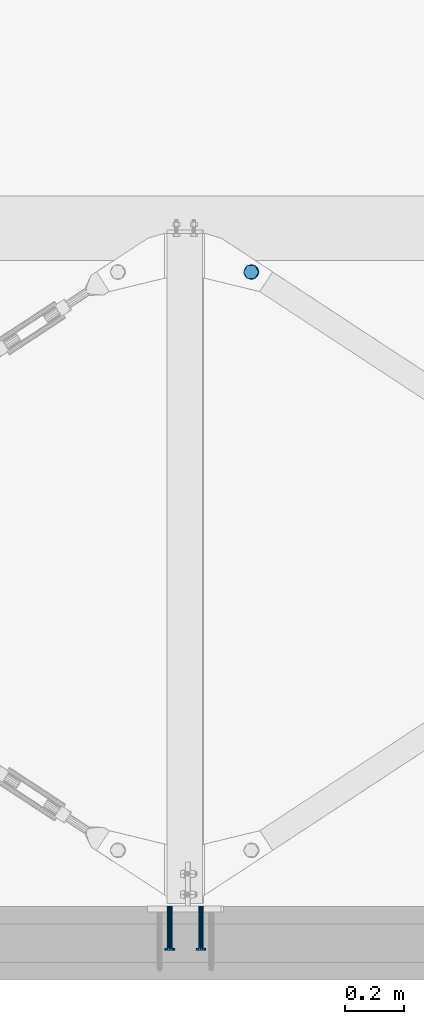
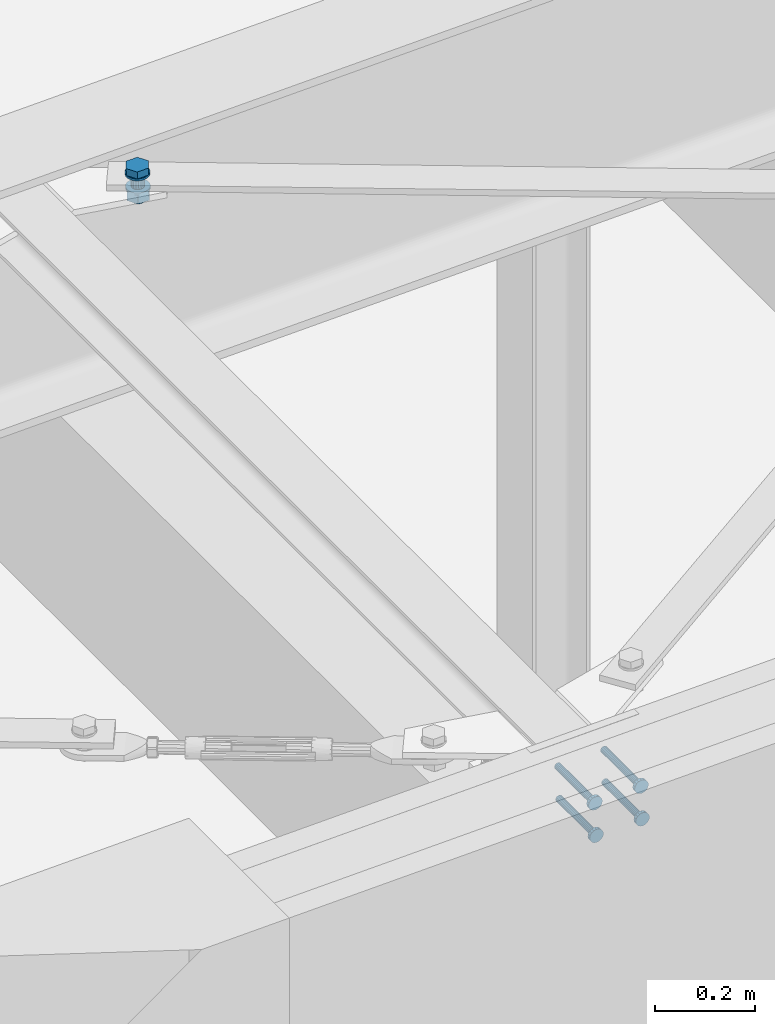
# One storey, part 134 of 476: 5 mechanical fasteners.
"""IFC2X3 building model written with IfcOpenShell, lengths in millimetres."""

from ifc_helpers import new_model, entity, si_unit, converted_unit, origin_with_axes, place, context, project, spatial, faceted_brep, element, save


model = new_model("IFC2X3")

# Units and contexts
model_context = context("Model", 3, precision=1e-09, world=origin_with_axes())
ifc_project = project(units=[si_unit("LENGTHUNIT", "METRE", prefix="MILLI"), si_unit("AREAUNIT", "SQUARE_METRE"), si_unit("VOLUMEUNIT", "CUBIC_METRE"), converted_unit("PLANEANGLEUNIT", "DEGREE", entity("IfcPlaneAngleMeasure", 0.01745329), si_unit("PLANEANGLEUNIT", "RADIAN"), dimensions=[0, 0, 0, 0, 0, 0, 0])], contexts=[model_context])

# Site, building, storey
site_placement = place(None, origin_with_axes())
site = spatial("IfcSite", under=ifc_project, at=site_placement, Name="mKR Teilneubau & Sanierung BA1 - Ostfildern", CompositionType="ELEMENT")
building_placement = place(site_placement, origin_with_axes())
building = spatial("IfcBuilding", under=site, at=building_placement, Name="Struktur 1", CompositionType="ELEMENT")
storey_placement = place(building_placement, origin_with_axes())
storey = spatial("IfcBuildingStorey", under=building, at=storey_placement, Name="Default Storey", CompositionType="ELEMENT", Elevation=0.0)

# Mechanical fasteners
mechanical_fastener_1_placement = place(None, origin_with_axes())
element("IfcMechanicalFastener", 1, at=mechanical_fastener_1_placement, inside=storey, ObjectType="-", NominalDiameter=27.0, NominalLength=70.0, context=model_context, shape_type="Brep", body=[
    faceted_brep([(18740.241751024, -21399.605344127, 5552.151599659), (18740.391848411, -21399.605344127, 5547.15385309), (18745.266908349, -21399.124976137, 5547.300265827), (18745.116810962, -21399.124976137, 5552.298012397), (18749.954622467, -21397.702332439, 5547.441052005), (18749.804525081, -21397.702332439, 5552.438798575), (18754.274844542, -21395.392084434, 5547.57080129), (18754.124747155, -21395.392084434, 5552.56854786), (18758.061550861, -21392.283013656, 5547.684527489), (18757.911453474, -21392.283013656, 5552.682274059), (18761.169220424, -21388.494599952, 5547.777860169), (18761.019123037, -21388.494599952, 5552.775606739), (18763.478427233, -21384.172429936, 5547.847212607), (18763.328329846, -21384.172429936, 5552.844959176), (18764.900429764, -21379.482602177, 5547.889919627), (18764.750332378, -21379.482602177, 5552.887666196), (18765.380581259, -21374.605344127, 5547.904340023), (18765.230483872, -21374.605344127, 5552.902086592), (18764.900429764, -21369.728086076, 5547.889919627), (18764.750332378, -21369.728086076, 5552.887666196), (18763.478427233, -21365.038258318, 5547.847212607), (18763.328329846, -21365.038258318, 5552.844959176), (18761.169220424, -21360.716088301, 5547.777860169), (18761.019123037, -21360.716088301, 5552.775606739), (18758.061550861, -21356.927674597, 5547.684527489), (18757.911453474, -21356.927674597, 5552.682274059), (18754.274844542, -21353.818603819, 5547.57080129), (18754.124747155, -21353.818603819, 5552.56854786), (18749.954622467, -21351.508355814, 5547.441052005), (18749.804525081, -21351.508355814, 5552.438798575), (18745.266908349, -21350.085712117, 5547.300265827), (18745.116810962, -21350.085712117, 5552.298012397), (18740.391848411, -21349.605344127, 5547.15385309), (18740.241751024, -21349.605344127, 5552.151599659), (18735.516788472, -21350.085712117, 5547.007440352), (18735.366691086, -21350.085712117, 5552.005186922), (18730.829074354, -21351.508355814, 5546.866654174), (18730.678976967, -21351.508355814, 5551.864400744), (18726.508852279, -21353.818603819, 5546.73690489), (18726.358754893, -21353.818603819, 5551.734651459), (18722.72214596, -21356.927674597, 5546.62317869), (18722.572048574, -21356.927674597, 5551.62092526), (18719.614476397, -21360.716088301, 5546.529846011), (18719.464379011, -21360.716088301, 5551.52759258), (18717.305269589, -21365.038258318, 5546.460493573), (18717.155172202, -21365.038258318, 5551.458240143), (18715.883267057, -21369.728086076, 5546.417786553), (18715.73316967, -21369.728086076, 5551.415533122), (18715.403115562, -21374.605344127, 5546.403366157), (18715.253018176, -21374.605344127, 5551.401112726), (18715.883267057, -21379.482602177, 5546.417786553), (18715.73316967, -21379.482602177, 5551.415533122), (18717.305269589, -21384.172429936, 5546.460493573), (18717.155172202, -21384.172429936, 5551.458240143), (18719.614476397, -21388.494599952, 5546.529846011), (18719.464379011, -21388.494599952, 5551.52759258), (18722.72214596, -21392.283013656, 5546.62317869), (18722.572048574, -21392.283013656, 5551.62092526), (18726.508852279, -21395.392084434, 5546.73690489), (18726.358754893, -21395.392084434, 5551.734651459), (18730.829074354, -21397.702332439, 5546.866654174), (18730.678976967, -21397.702332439, 5551.864400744), (18735.516788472, -21399.124976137, 5547.007440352), (18735.366691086, -21399.124976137, 5552.005186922)], [[[0, 1, 2, 3]], [[3, 2, 4, 5]], [[5, 4, 6, 7]], [[7, 6, 8, 9]], [[9, 8, 10, 11]], [[11, 10, 12, 13]], [[13, 12, 14, 15]], [[15, 14, 16, 17]], [[17, 16, 18, 19]], [[19, 18, 20, 21]], [[21, 20, 22, 23]], [[23, 22, 24, 25]], [[25, 24, 26, 27]], [[27, 26, 28, 29]], [[29, 28, 30, 31]], [[31, 30, 32, 33]], [[33, 32, 34, 35]], [[35, 34, 36, 37]], [[37, 36, 38, 39]], [[39, 38, 40, 41]], [[41, 40, 42, 43]], [[43, 42, 44, 45]], [[45, 44, 46, 47]], [[47, 46, 48, 49]], [[49, 48, 50, 51]], [[51, 50, 52, 53]], [[53, 52, 54, 55]], [[55, 54, 56, 57]], [[57, 56, 58, 59]], [[59, 58, 60, 61]], [[61, 60, 62, 63]], [[63, 62, 1, 0]], [[0, 3, 5, 7, 9, 11, 13, 15, 17, 19, 21, 23, 25, 27, 29, 31, 33, 35, 37, 39, 41, 43, 45, 47, 49, 51, 53, 55, 57, 59, 61, 63]], [[1, 62, 60, 58, 56, 54, 52, 50, 48, 46, 44, 42, 40, 38, 36, 34, 32, 30, 28, 26, 24, 22, 20, 18, 16, 14, 12, 10, 8, 6, 4, 2]]]),
    faceted_brep([(18752.948521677, -21352.586648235, 5552.533222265), (18752.438190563, -21352.586648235, 5569.525560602), (18765.144961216, -21374.605344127, 5569.907183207), (18765.655292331, -21374.605344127, 5552.91484487), (18752.438190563, -21396.624040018, 5569.525560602), (18752.948521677, -21396.624040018, 5552.533222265), (18727.024649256, -21396.624040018, 5568.762315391), (18727.534980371, -21396.624040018, 5551.769977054), (18714.317878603, -21374.605344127, 5568.380692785), (18714.828209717, -21374.605344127, 5551.388354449), (18727.024649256, -21352.586648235, 5568.762315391), (18727.534980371, -21352.586648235, 5551.769977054)], [[[0, 1, 2, 3]], [[3, 2, 4, 5]], [[5, 4, 6, 7]], [[7, 6, 8, 9]], [[9, 8, 10, 11]], [[11, 10, 1, 0]], [[4, 2, 1, 10, 8, 6]], [[0, 3, 5, 7, 9, 11]]]),
    faceted_brep([(18740.391848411, -21388.105344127, 5547.15385309), (18741.290059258, -21388.105344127, 5517.246402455), (18746.453957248, -21387.077717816, 5517.40148987), (18745.555746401, -21387.077717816, 5547.308940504), (18750.831698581, -21384.151285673, 5517.532966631), (18749.933487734, -21384.151285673, 5547.440417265), (18753.756811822, -21379.771570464, 5517.620816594), (18752.858600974, -21379.771570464, 5547.528267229), (18754.783974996, -21374.605344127, 5517.651665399), (18753.885764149, -21374.605344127, 5547.559116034), (18753.756811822, -21369.43911779, 5517.620816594), (18752.858600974, -21369.43911779, 5547.528267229), (18750.831698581, -21365.059402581, 5517.532966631), (18749.933487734, -21365.059402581, 5547.440417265), (18746.453957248, -21362.132970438, 5517.40148987), (18745.555746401, -21362.132970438, 5547.308940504), (18741.290059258, -21361.105344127, 5517.246402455), (18740.391848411, -21361.105344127, 5547.15385309), (18736.126161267, -21362.132970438, 5517.091315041), (18735.22795042, -21362.132970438, 5546.998765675), (18731.748419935, -21365.059402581, 5516.95983828), (18730.850209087, -21365.059402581, 5546.867288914), (18728.823306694, -21369.43911779, 5516.871988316), (18727.925095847, -21369.43911779, 5546.779438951), (18727.79614352, -21374.605344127, 5516.841139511), (18726.897932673, -21374.605344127, 5546.748590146), (18728.823306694, -21379.771570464, 5516.871988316), (18727.925095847, -21379.771570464, 5546.779438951), (18731.748419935, -21384.151285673, 5516.95983828), (18730.850209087, -21384.151285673, 5546.867288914), (18736.126161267, -21387.077717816, 5517.091315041), (18735.22795042, -21387.077717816, 5546.998765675)], [[[0, 1, 2, 3]], [[3, 2, 4, 5]], [[5, 4, 6, 7]], [[7, 6, 8, 9]], [[9, 8, 10, 11]], [[11, 10, 12, 13]], [[13, 12, 14, 15]], [[15, 14, 16, 17]], [[17, 16, 18, 19]], [[19, 18, 20, 21]], [[21, 20, 22, 23]], [[23, 22, 24, 25]], [[25, 24, 26, 27]], [[27, 26, 28, 29]], [[29, 28, 30, 31]], [[31, 30, 1, 0]], [[0, 3, 5, 7, 9, 11, 13, 15, 17, 19, 21, 23, 25, 27, 29, 31]], [[1, 30, 28, 26, 24, 22, 20, 18, 16, 14, 12, 10, 8, 6, 4, 2]]]),
    faceted_brep([(18741.290059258, -21399.605344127, 5517.246402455), (18741.440156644, -21399.605344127, 5512.248655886), (18746.315216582, -21399.124976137, 5512.395068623), (18746.165119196, -21399.124976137, 5517.392815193), (18751.002930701, -21397.702332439, 5512.535854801), (18750.852833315, -21397.702332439, 5517.533601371), (18755.323152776, -21395.392084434, 5512.665604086), (18755.173055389, -21395.392084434, 5517.663350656), (18759.109859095, -21392.283013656, 5512.779330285), (18758.959761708, -21392.283013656, 5517.777076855), (18762.217528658, -21388.494599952, 5512.872662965), (18762.067431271, -21388.494599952, 5517.870409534), (18764.526735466, -21384.172429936, 5512.942015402), (18764.37663808, -21384.172429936, 5517.939761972), (18765.948737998, -21379.482602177, 5512.984722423), (18765.798640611, -21379.482602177, 5517.982468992), (18766.428889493, -21374.605344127, 5512.999142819), (18766.278792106, -21374.605344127, 5517.996889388), (18765.948737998, -21369.728086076, 5512.984722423), (18765.798640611, -21369.728086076, 5517.982468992), (18764.526735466, -21365.038258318, 5512.942015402), (18764.37663808, -21365.038258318, 5517.939761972), (18762.217528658, -21360.716088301, 5512.872662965), (18762.067431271, -21360.716088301, 5517.870409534), (18759.109859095, -21356.927674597, 5512.779330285), (18758.959761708, -21356.927674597, 5517.777076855), (18755.323152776, -21353.818603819, 5512.665604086), (18755.173055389, -21353.818603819, 5517.663350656), (18751.002930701, -21351.508355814, 5512.535854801), (18750.852833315, -21351.508355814, 5517.533601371), (18746.315216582, -21350.085712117, 5512.395068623), (18746.165119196, -21350.085712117, 5517.392815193), (18741.440156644, -21349.605344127, 5512.248655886), (18741.290059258, -21349.605344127, 5517.246402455), (18736.565096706, -21350.085712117, 5512.102243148), (18736.41499932, -21350.085712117, 5517.099989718), (18731.877382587, -21351.508355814, 5511.96145697), (18731.727285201, -21351.508355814, 5516.95920354), (18727.557160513, -21353.818603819, 5511.831707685), (18727.407063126, -21353.818603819, 5516.829454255), (18723.770454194, -21356.927674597, 5511.717981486), (18723.620356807, -21356.927674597, 5516.715728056), (18720.662784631, -21360.716088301, 5511.624648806), (18720.512687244, -21360.716088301, 5516.622395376), (18718.353577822, -21365.038258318, 5511.555296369), (18718.203480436, -21365.038258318, 5516.553042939), (18716.931575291, -21369.728086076, 5511.512589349), (18716.781477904, -21369.728086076, 5516.510335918), (18716.451423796, -21374.605344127, 5511.498168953), (18716.301326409, -21374.605344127, 5516.495915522), (18716.931575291, -21379.482602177, 5511.512589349), (18716.781477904, -21379.482602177, 5516.510335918), (18718.353577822, -21384.172429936, 5511.555296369), (18718.203480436, -21384.172429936, 5516.553042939), (18720.662784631, -21388.494599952, 5511.624648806), (18720.512687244, -21388.494599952, 5516.622395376), (18723.770454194, -21392.283013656, 5511.717981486), (18723.620356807, -21392.283013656, 5516.715728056), (18727.557160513, -21395.392084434, 5511.831707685), (18727.407063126, -21395.392084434, 5516.829454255), (18731.877382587, -21397.702332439, 5511.96145697), (18731.727285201, -21397.702332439, 5516.95920354), (18736.565096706, -21399.124976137, 5512.102243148), (18736.41499932, -21399.124976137, 5517.099989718)], [[[0, 1, 2, 3]], [[3, 2, 4, 5]], [[5, 4, 6, 7]], [[7, 6, 8, 9]], [[9, 8, 10, 11]], [[11, 10, 12, 13]], [[13, 12, 14, 15]], [[15, 14, 16, 17]], [[17, 16, 18, 19]], [[19, 18, 20, 21]], [[21, 20, 22, 23]], [[23, 22, 24, 25]], [[25, 24, 26, 27]], [[27, 26, 28, 29]], [[29, 28, 30, 31]], [[31, 30, 32, 33]], [[33, 32, 34, 35]], [[35, 34, 36, 37]], [[37, 36, 38, 39]], [[39, 38, 40, 41]], [[41, 40, 42, 43]], [[43, 42, 44, 45]], [[45, 44, 46, 47]], [[47, 46, 48, 49]], [[49, 48, 50, 51]], [[51, 50, 52, 53]], [[53, 52, 54, 55]], [[55, 54, 56, 57]], [[57, 56, 58, 59]], [[59, 58, 60, 61]], [[61, 60, 62, 63]], [[63, 62, 1, 0]], [[0, 3, 5, 7, 9, 11, 13, 15, 17, 19, 21, 23, 25, 27, 29, 31, 33, 35, 37, 39, 41, 43, 45, 47, 49, 51, 53, 55, 57, 59, 61, 63]], [[1, 62, 60, 58, 56, 54, 52, 50, 48, 46, 44, 42, 40, 38, 36, 34, 32, 30, 28, 26, 24, 22, 20, 18, 16, 14, 12, 10, 8, 6, 4, 2]]]),
    faceted_brep([(18754.844838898, -21352.52169633, 5490.641319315), (18754.184410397, -21352.52169633, 5512.631404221), (18766.92866415, -21374.605344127, 5513.014152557), (18767.589092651, -21374.605344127, 5491.024067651), (18754.184410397, -21396.688991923, 5512.631404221), (18754.844838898, -21396.688991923, 5490.641319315), (18728.695902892, -21396.688991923, 5511.86590755), (18729.356331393, -21396.688991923, 5489.875822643), (18715.951649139, -21374.605344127, 5511.483159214), (18716.61207764, -21374.605344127, 5489.493074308), (18728.695902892, -21352.52169633, 5511.86590755), (18729.356331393, -21352.52169633, 5489.875822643)], [[[0, 1, 2, 3]], [[3, 2, 4, 5]], [[5, 4, 6, 7]], [[7, 6, 8, 9]], [[9, 8, 10, 11]], [[11, 10, 1, 0]], [[4, 2, 1, 10, 8, 6]], [[0, 3, 5, 7, 9, 11]]]),
    faceted_brep([(18742.100585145, -21388.105344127, 5490.258570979), (18742.343114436, -21388.105344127, 5482.183147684), (18747.507012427, -21387.077717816, 5482.338235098), (18747.264483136, -21387.077717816, 5490.413658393), (18751.884753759, -21384.151285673, 5482.46971186), (18751.642224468, -21384.151285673, 5490.545135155), (18754.809867, -21379.771570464, 5482.557561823), (18754.567337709, -21379.771570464, 5490.632985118), (18755.837030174, -21374.605344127, 5482.588410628), (18755.594500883, -21374.605344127, 5490.663833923), (18754.809867, -21369.43911779, 5482.557561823), (18754.567337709, -21369.43911779, 5490.632985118), (18751.884753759, -21365.059402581, 5482.46971186), (18751.642224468, -21365.059402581, 5490.545135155), (18747.507012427, -21362.132970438, 5482.338235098), (18747.264483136, -21362.132970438, 5490.413658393), (18742.343114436, -21361.105344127, 5482.183147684), (18742.100585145, -21361.105344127, 5490.258570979), (18737.179216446, -21362.132970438, 5482.02806027), (18736.936687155, -21362.132970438, 5490.103483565), (18732.801475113, -21365.059402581, 5481.896583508), (18732.558945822, -21365.059402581, 5489.972006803), (18729.876361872, -21369.43911779, 5481.808733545), (18729.633832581, -21369.43911779, 5489.88415684), (18728.849198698, -21374.605344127, 5481.77788474), (18728.606669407, -21374.605344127, 5489.853308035), (18729.876361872, -21379.771570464, 5481.808733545), (18729.633832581, -21379.771570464, 5489.88415684), (18732.801475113, -21384.151285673, 5481.896583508), (18732.558945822, -21384.151285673, 5489.972006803), (18737.179216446, -21387.077717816, 5482.02806027), (18736.936687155, -21387.077717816, 5490.103483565)], [[[0, 1, 2, 3]], [[3, 2, 4, 5]], [[5, 4, 6, 7]], [[7, 6, 8, 9]], [[9, 8, 10, 11]], [[11, 10, 12, 13]], [[13, 12, 14, 15]], [[15, 14, 16, 17]], [[17, 16, 18, 19]], [[19, 18, 20, 21]], [[21, 20, 22, 23]], [[23, 22, 24, 25]], [[25, 24, 26, 27]], [[27, 26, 28, 29]], [[29, 28, 30, 31]], [[31, 30, 1, 0]], [[0, 3, 5, 7, 9, 11, 13, 15, 17, 19, 21, 23, 25, 27, 29, 31]], [[1, 30, 28, 26, 24, 22, 20, 18, 16, 14, 12, 10, 8, 6, 4, 2]]]),
])
mechanical_fastener_2_placement = place(None, origin_with_axes())
element("IfcMechanicalFastener", 2, at=mechanical_fastener_2_placement, inside=storey, ObjectType="-", NominalDiameter=16.0, NominalLength=150.0, context=model_context, shape_type="Brep", body=[
    faceted_brep([(18454.335924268, -23671.67387897, 5511.457641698), (18454.335924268, -23529.67387897, 5511.457641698), (18455.036585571, -23529.67387897, 5508.415850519), (18455.036585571, -23671.67387897, 5508.415850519), (18456.847955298, -23529.67387897, 5505.873733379), (18456.847955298, -23671.67387897, 5505.873733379), (18459.494268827, -23529.67387897, 5504.218304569), (18459.494268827, -23671.67387897, 5504.218304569), (18462.572648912, -23529.67387897, 5503.701588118), (18462.572648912, -23671.67387897, 5503.701588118), (18465.614440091, -23529.67387897, 5504.402249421), (18465.614440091, -23671.67387897, 5504.402249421), (18468.15655723, -23529.67387897, 5506.213619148), (18468.15655723, -23671.67387897, 5506.213619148), (18469.811986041, -23529.67387897, 5508.859932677), (18469.811986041, -23671.67387897, 5508.859932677), (18470.328702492, -23529.67387897, 5511.938312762), (18470.328702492, -23671.67387897, 5511.938312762), (18469.628041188, -23529.67387897, 5514.98010394), (18469.628041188, -23671.67387897, 5514.98010394), (18467.816671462, -23529.67387897, 5517.52222108), (18467.816671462, -23671.67387897, 5517.52222108), (18465.170357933, -23529.67387897, 5519.177649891), (18465.170357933, -23671.67387897, 5519.177649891), (18462.091977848, -23529.67387897, 5519.694366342), (18462.091977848, -23671.67387897, 5519.694366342), (18459.050186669, -23529.67387897, 5518.993705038), (18459.050186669, -23671.67387897, 5518.993705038), (18456.508069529, -23529.67387897, 5517.182335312), (18456.508069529, -23671.67387897, 5517.182335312), (18454.852640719, -23529.67387897, 5514.536021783), (18454.852640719, -23671.67387897, 5514.536021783)], [[[0, 1, 2, 3]], [[3, 2, 4, 5]], [[5, 4, 6, 7]], [[7, 6, 8, 9]], [[9, 8, 10, 11]], [[11, 10, 12, 13]], [[13, 12, 14, 15]], [[15, 14, 16, 17]], [[17, 16, 18, 19]], [[19, 18, 20, 21]], [[21, 20, 22, 23]], [[23, 22, 24, 25]], [[25, 24, 26, 27]], [[27, 26, 28, 29]], [[29, 28, 30, 31]], [[31, 30, 1, 0]], [[0, 3, 5, 7, 9, 11, 13, 15, 17, 19, 21, 23, 25, 27, 29, 31]], [[1, 30, 28, 26, 24, 22, 20, 18, 16, 14, 12, 10, 8, 6, 4, 2]]]),
    faceted_brep([(18446.339535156, -23679.67387897, 5511.217306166), (18446.339535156, -23671.67387897, 5511.217306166), (18447.740857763, -23671.67387897, 5505.133723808), (18447.740857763, -23679.67387897, 5505.133723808), (18451.363597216, -23671.67387897, 5500.049489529), (18451.363597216, -23679.67387897, 5500.049489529), (18456.656224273, -23671.67387897, 5496.738631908), (18456.656224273, -23679.67387897, 5496.738631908), (18462.812984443, -23671.67387897, 5495.705199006), (18462.812984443, -23679.67387897, 5495.705199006), (18468.896566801, -23671.67387897, 5497.106521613), (18468.896566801, -23679.67387897, 5497.106521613), (18473.980801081, -23671.67387897, 5500.729261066), (18473.980801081, -23679.67387897, 5500.729261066), (18477.291658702, -23671.67387897, 5506.021888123), (18477.291658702, -23679.67387897, 5506.021888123), (18478.325091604, -23671.67387897, 5512.178648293), (18478.325091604, -23679.67387897, 5512.178648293), (18476.923768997, -23671.67387897, 5518.262230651), (18476.923768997, -23679.67387897, 5518.262230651), (18473.301029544, -23671.67387897, 5523.346464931), (18473.301029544, -23679.67387897, 5523.346464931), (18468.008402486, -23671.67387897, 5526.657322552), (18468.008402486, -23679.67387897, 5526.657322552), (18461.851642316, -23671.67387897, 5527.690755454), (18461.851642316, -23679.67387897, 5527.690755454), (18455.768059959, -23671.67387897, 5526.289432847), (18455.768059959, -23679.67387897, 5526.289432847), (18450.683825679, -23671.67387897, 5522.666693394), (18450.683825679, -23679.67387897, 5522.666693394), (18447.372968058, -23671.67387897, 5517.374066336), (18447.372968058, -23679.67387897, 5517.374066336)], [[[0, 1, 2, 3]], [[3, 2, 4, 5]], [[5, 4, 6, 7]], [[7, 6, 8, 9]], [[9, 8, 10, 11]], [[11, 10, 12, 13]], [[13, 12, 14, 15]], [[15, 14, 16, 17]], [[17, 16, 18, 19]], [[19, 18, 20, 21]], [[21, 20, 22, 23]], [[23, 22, 24, 25]], [[25, 24, 26, 27]], [[27, 26, 28, 29]], [[29, 28, 30, 31]], [[31, 30, 1, 0]], [[0, 3, 5, 7, 9, 11, 13, 15, 17, 19, 21, 23, 25, 27, 29, 31]], [[1, 30, 28, 26, 24, 22, 20, 18, 16, 14, 12, 10, 8, 6, 4, 2]]]),
])
mechanical_fastener_3_placement = place(None, origin_with_axes())
element("IfcMechanicalFastener", 3, at=mechanical_fastener_3_placement, inside=storey, ObjectType="-", NominalDiameter=16.0, NominalLength=150.0, context=model_context, shape_type="Brep", body=[
    faceted_brep([(18560.288080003, -23671.67387897, 5514.642087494), (18560.288080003, -23529.67387897, 5514.642087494), (18560.988741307, -23529.67387897, 5511.600296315), (18560.988741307, -23671.67387897, 5511.600296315), (18562.800111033, -23529.67387897, 5509.058179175), (18562.800111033, -23671.67387897, 5509.058179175), (18565.446424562, -23529.67387897, 5507.402750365), (18565.446424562, -23671.67387897, 5507.402750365), (18568.524804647, -23529.67387897, 5506.886033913), (18568.524804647, -23671.67387897, 5506.886033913), (18571.566595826, -23529.67387897, 5507.586695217), (18571.566595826, -23671.67387897, 5507.586695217), (18574.108712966, -23529.67387897, 5509.398064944), (18574.108712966, -23671.67387897, 5509.398064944), (18575.764141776, -23529.67387897, 5512.044378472), (18575.764141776, -23671.67387897, 5512.044378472), (18576.280858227, -23529.67387897, 5515.122758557), (18576.280858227, -23671.67387897, 5515.122758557), (18575.580196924, -23529.67387897, 5518.164549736), (18575.580196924, -23671.67387897, 5518.164549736), (18573.768827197, -23529.67387897, 5520.706666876), (18573.768827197, -23671.67387897, 5520.706666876), (18571.122513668, -23529.67387897, 5522.362095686), (18571.122513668, -23671.67387897, 5522.362095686), (18568.044133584, -23529.67387897, 5522.878812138), (18568.044133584, -23671.67387897, 5522.878812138), (18565.002342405, -23529.67387897, 5522.178150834), (18565.002342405, -23671.67387897, 5522.178150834), (18562.460225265, -23529.67387897, 5520.366781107), (18562.460225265, -23671.67387897, 5520.366781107), (18560.804796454, -23529.67387897, 5517.720467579), (18560.804796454, -23671.67387897, 5517.720467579)], [[[0, 1, 2, 3]], [[3, 2, 4, 5]], [[5, 4, 6, 7]], [[7, 6, 8, 9]], [[9, 8, 10, 11]], [[11, 10, 12, 13]], [[13, 12, 14, 15]], [[15, 14, 16, 17]], [[17, 16, 18, 19]], [[19, 18, 20, 21]], [[21, 20, 22, 23]], [[23, 22, 24, 25]], [[25, 24, 26, 27]], [[27, 26, 28, 29]], [[29, 28, 30, 31]], [[31, 30, 1, 0]], [[0, 3, 5, 7, 9, 11, 13, 15, 17, 19, 21, 23, 25, 27, 29, 31]], [[1, 30, 28, 26, 24, 22, 20, 18, 16, 14, 12, 10, 8, 6, 4, 2]]]),
    faceted_brep([(18552.291690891, -23679.67387897, 5514.401751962), (18552.291690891, -23671.67387897, 5514.401751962), (18553.693013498, -23671.67387897, 5508.318169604), (18553.693013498, -23679.67387897, 5508.318169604), (18557.315752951, -23671.67387897, 5503.233935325), (18557.315752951, -23679.67387897, 5503.233935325), (18562.608380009, -23671.67387897, 5499.923077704), (18562.608380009, -23679.67387897, 5499.923077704), (18568.765140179, -23671.67387897, 5498.889644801), (18568.765140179, -23679.67387897, 5498.889644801), (18574.848722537, -23671.67387897, 5500.290967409), (18574.848722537, -23679.67387897, 5500.290967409), (18579.932956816, -23671.67387897, 5503.913706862), (18579.932956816, -23679.67387897, 5503.913706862), (18583.243814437, -23671.67387897, 5509.206333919), (18583.243814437, -23679.67387897, 5509.206333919), (18584.277247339, -23671.67387897, 5515.363094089), (18584.277247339, -23679.67387897, 5515.363094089), (18582.875924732, -23671.67387897, 5521.446676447), (18582.875924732, -23679.67387897, 5521.446676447), (18579.253185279, -23671.67387897, 5526.530910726), (18579.253185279, -23679.67387897, 5526.530910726), (18573.960558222, -23671.67387897, 5529.841768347), (18573.960558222, -23679.67387897, 5529.841768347), (18567.803798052, -23671.67387897, 5530.87520125), (18567.803798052, -23679.67387897, 5530.87520125), (18561.720215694, -23671.67387897, 5529.473878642), (18561.720215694, -23679.67387897, 5529.473878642), (18556.635981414, -23671.67387897, 5525.851139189), (18556.635981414, -23679.67387897, 5525.851139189), (18553.325123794, -23671.67387897, 5520.558512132), (18553.325123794, -23679.67387897, 5520.558512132)], [[[0, 1, 2, 3]], [[3, 2, 4, 5]], [[5, 4, 6, 7]], [[7, 6, 8, 9]], [[9, 8, 10, 11]], [[11, 10, 12, 13]], [[13, 12, 14, 15]], [[15, 14, 16, 17]], [[17, 16, 18, 19]], [[19, 18, 20, 21]], [[21, 20, 22, 23]], [[23, 22, 24, 25]], [[25, 24, 26, 27]], [[27, 26, 28, 29]], [[29, 28, 30, 31]], [[31, 30, 1, 0]], [[0, 3, 5, 7, 9, 11, 13, 15, 17, 19, 21, 23, 25, 27, 29, 31]], [[1, 30, 28, 26, 24, 22, 20, 18, 16, 14, 12, 10, 8, 6, 4, 2]]]),
])
mechanical_fastener_4_placement = place(None, origin_with_axes())
element("IfcMechanicalFastener", 4, at=mechanical_fastener_4_placement, inside=storey, ObjectType="-", NominalDiameter=16.0, NominalLength=150.0, context=model_context, shape_type="Brep", body=[
    faceted_brep([(18562.691435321, -23671.67387897, 5434.678196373), (18562.691435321, -23529.67387897, 5434.678196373), (18563.392096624, -23529.67387897, 5431.636405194), (18563.392096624, -23671.67387897, 5431.636405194), (18565.203466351, -23529.67387897, 5429.094288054), (18565.203466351, -23671.67387897, 5429.094288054), (18567.84977988, -23529.67387897, 5427.438859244), (18567.84977988, -23671.67387897, 5427.438859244), (18570.928159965, -23529.67387897, 5426.922142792), (18570.928159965, -23671.67387897, 5426.922142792), (18573.969951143, -23529.67387897, 5427.622804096), (18573.969951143, -23671.67387897, 5427.622804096), (18576.512068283, -23529.67387897, 5429.434173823), (18576.512068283, -23671.67387897, 5429.434173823), (18578.167497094, -23529.67387897, 5432.080487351), (18578.167497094, -23671.67387897, 5432.080487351), (18578.684213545, -23529.67387897, 5435.158867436), (18578.684213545, -23671.67387897, 5435.158867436), (18577.983552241, -23529.67387897, 5438.200658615), (18577.983552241, -23671.67387897, 5438.200658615), (18576.172182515, -23529.67387897, 5440.742775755), (18576.172182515, -23671.67387897, 5440.742775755), (18573.525868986, -23529.67387897, 5442.398204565), (18573.525868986, -23671.67387897, 5442.398204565), (18570.447488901, -23529.67387897, 5442.914921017), (18570.447488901, -23671.67387897, 5442.914921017), (18567.405697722, -23529.67387897, 5442.214259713), (18567.405697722, -23671.67387897, 5442.214259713), (18564.863580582, -23529.67387897, 5440.402889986), (18564.863580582, -23671.67387897, 5440.402889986), (18563.208151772, -23529.67387897, 5437.756576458), (18563.208151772, -23671.67387897, 5437.756576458)], [[[0, 1, 2, 3]], [[3, 2, 4, 5]], [[5, 4, 6, 7]], [[7, 6, 8, 9]], [[9, 8, 10, 11]], [[11, 10, 12, 13]], [[13, 12, 14, 15]], [[15, 14, 16, 17]], [[17, 16, 18, 19]], [[19, 18, 20, 21]], [[21, 20, 22, 23]], [[23, 22, 24, 25]], [[25, 24, 26, 27]], [[27, 26, 28, 29]], [[29, 28, 30, 31]], [[31, 30, 1, 0]], [[0, 3, 5, 7, 9, 11, 13, 15, 17, 19, 21, 23, 25, 27, 29, 31]], [[1, 30, 28, 26, 24, 22, 20, 18, 16, 14, 12, 10, 8, 6, 4, 2]]]),
    faceted_brep([(18554.695046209, -23679.67387897, 5434.437860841), (18554.695046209, -23671.67387897, 5434.437860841), (18556.096368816, -23671.67387897, 5428.354278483), (18556.096368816, -23679.67387897, 5428.354278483), (18559.719108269, -23671.67387897, 5423.270044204), (18559.719108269, -23679.67387897, 5423.270044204), (18565.011735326, -23671.67387897, 5419.959186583), (18565.011735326, -23679.67387897, 5419.959186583), (18571.168495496, -23671.67387897, 5418.92575368), (18571.168495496, -23679.67387897, 5418.92575368), (18577.252077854, -23671.67387897, 5420.327076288), (18577.252077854, -23679.67387897, 5420.327076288), (18582.336312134, -23671.67387897, 5423.949815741), (18582.336312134, -23679.67387897, 5423.949815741), (18585.647169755, -23671.67387897, 5429.242442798), (18585.647169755, -23679.67387897, 5429.242442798), (18586.680602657, -23671.67387897, 5435.399202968), (18586.680602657, -23679.67387897, 5435.399202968), (18585.27928005, -23671.67387897, 5441.482785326), (18585.27928005, -23679.67387897, 5441.482785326), (18581.656540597, -23671.67387897, 5446.567019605), (18581.656540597, -23679.67387897, 5446.567019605), (18576.363913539, -23671.67387897, 5449.877877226), (18576.363913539, -23679.67387897, 5449.877877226), (18570.207153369, -23671.67387897, 5450.911310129), (18570.207153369, -23679.67387897, 5450.911310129), (18564.123571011, -23671.67387897, 5449.509987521), (18564.123571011, -23679.67387897, 5449.509987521), (18559.039336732, -23671.67387897, 5445.887248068), (18559.039336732, -23679.67387897, 5445.887248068), (18555.728479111, -23671.67387897, 5440.594621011), (18555.728479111, -23679.67387897, 5440.594621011)], [[[0, 1, 2, 3]], [[3, 2, 4, 5]], [[5, 4, 6, 7]], [[7, 6, 8, 9]], [[9, 8, 10, 11]], [[11, 10, 12, 13]], [[13, 12, 14, 15]], [[15, 14, 16, 17]], [[17, 16, 18, 19]], [[19, 18, 20, 21]], [[21, 20, 22, 23]], [[23, 22, 24, 25]], [[25, 24, 26, 27]], [[27, 26, 28, 29]], [[29, 28, 30, 31]], [[31, 30, 1, 0]], [[0, 3, 5, 7, 9, 11, 13, 15, 17, 19, 21, 23, 25, 27, 29, 31]], [[1, 30, 28, 26, 24, 22, 20, 18, 16, 14, 12, 10, 8, 6, 4, 2]]]),
])
mechanical_fastener_5_placement = place(None, origin_with_axes())
element("IfcMechanicalFastener", 5, at=mechanical_fastener_5_placement, inside=storey, ObjectType="-", NominalDiameter=16.0, NominalLength=150.0, context=model_context, shape_type="Brep", body=[
    faceted_brep([(18456.953199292, -23671.67387897, 5431.500180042), (18456.953199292, -23529.67387897, 5431.500180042), (18457.653860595, -23529.67387897, 5428.458388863), (18457.653860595, -23671.67387897, 5428.458388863), (18459.465230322, -23529.67387897, 5425.916271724), (18459.465230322, -23671.67387897, 5425.916271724), (18462.11154385, -23529.67387897, 5424.260842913), (18462.11154385, -23671.67387897, 5424.260842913), (18465.189923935, -23529.67387897, 5423.744126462), (18465.189923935, -23671.67387897, 5423.744126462), (18468.231715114, -23529.67387897, 5424.444787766), (18468.231715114, -23671.67387897, 5424.444787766), (18470.773832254, -23529.67387897, 5426.256157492), (18470.773832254, -23671.67387897, 5426.256157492), (18472.429261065, -23529.67387897, 5428.902471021), (18472.429261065, -23671.67387897, 5428.902471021), (18472.945977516, -23529.67387897, 5431.980851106), (18472.945977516, -23671.67387897, 5431.980851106), (18472.245316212, -23529.67387897, 5435.022642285), (18472.245316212, -23671.67387897, 5435.022642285), (18470.433946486, -23529.67387897, 5437.564759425), (18470.433946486, -23671.67387897, 5437.564759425), (18467.787632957, -23529.67387897, 5439.220188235), (18467.787632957, -23671.67387897, 5439.220188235), (18464.709252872, -23529.67387897, 5439.736904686), (18464.709252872, -23671.67387897, 5439.736904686), (18461.667461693, -23529.67387897, 5439.036243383), (18461.667461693, -23671.67387897, 5439.036243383), (18459.125344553, -23529.67387897, 5437.224873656), (18459.125344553, -23671.67387897, 5437.224873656), (18457.469915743, -23529.67387897, 5434.578560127), (18457.469915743, -23671.67387897, 5434.578560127)], [[[0, 1, 2, 3]], [[3, 2, 4, 5]], [[5, 4, 6, 7]], [[7, 6, 8, 9]], [[9, 8, 10, 11]], [[11, 10, 12, 13]], [[13, 12, 14, 15]], [[15, 14, 16, 17]], [[17, 16, 18, 19]], [[19, 18, 20, 21]], [[21, 20, 22, 23]], [[23, 22, 24, 25]], [[25, 24, 26, 27]], [[27, 26, 28, 29]], [[29, 28, 30, 31]], [[31, 30, 1, 0]], [[0, 3, 5, 7, 9, 11, 13, 15, 17, 19, 21, 23, 25, 27, 29, 31]], [[1, 30, 28, 26, 24, 22, 20, 18, 16, 14, 12, 10, 8, 6, 4, 2]]]),
    faceted_brep([(18448.956810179, -23679.67387897, 5431.259844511), (18448.956810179, -23671.67387897, 5431.259844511), (18450.358132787, -23671.67387897, 5425.176262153), (18450.358132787, -23679.67387897, 5425.176262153), (18453.98087224, -23671.67387897, 5420.092027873), (18453.98087224, -23679.67387897, 5420.092027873), (18459.273499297, -23671.67387897, 5416.781170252), (18459.273499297, -23679.67387897, 5416.781170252), (18465.430259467, -23671.67387897, 5415.74773735), (18465.430259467, -23679.67387897, 5415.74773735), (18471.513841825, -23671.67387897, 5417.149059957), (18471.513841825, -23679.67387897, 5417.149059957), (18476.598076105, -23671.67387897, 5420.77179941), (18476.598076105, -23679.67387897, 5420.77179941), (18479.908933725, -23671.67387897, 5426.064426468), (18479.908933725, -23679.67387897, 5426.064426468), (18480.942366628, -23671.67387897, 5432.221186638), (18480.942366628, -23679.67387897, 5432.221186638), (18479.541044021, -23671.67387897, 5438.304768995), (18479.541044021, -23679.67387897, 5438.304768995), (18475.918304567, -23671.67387897, 5443.389003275), (18475.918304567, -23679.67387897, 5443.389003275), (18470.62567751, -23671.67387897, 5446.699860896), (18470.62567751, -23679.67387897, 5446.699860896), (18464.46891734, -23671.67387897, 5447.733293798), (18464.46891734, -23679.67387897, 5447.733293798), (18458.385334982, -23671.67387897, 5446.331971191), (18458.385334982, -23679.67387897, 5446.331971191), (18453.301100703, -23671.67387897, 5442.709231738), (18453.301100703, -23679.67387897, 5442.709231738), (18449.990243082, -23671.67387897, 5437.416604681), (18449.990243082, -23679.67387897, 5437.416604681)], [[[0, 1, 2, 3]], [[3, 2, 4, 5]], [[5, 4, 6, 7]], [[7, 6, 8, 9]], [[9, 8, 10, 11]], [[11, 10, 12, 13]], [[13, 12, 14, 15]], [[15, 14, 16, 17]], [[17, 16, 18, 19]], [[19, 18, 20, 21]], [[21, 20, 22, 23]], [[23, 22, 24, 25]], [[25, 24, 26, 27]], [[27, 26, 28, 29]], [[29, 28, 30, 31]], [[31, 30, 1, 0]], [[0, 3, 5, 7, 9, 11, 13, 15, 17, 19, 21, 23, 25, 27, 29, 31]], [[1, 30, 28, 26, 24, 22, 20, 18, 16, 14, 12, 10, 8, 6, 4, 2]]]),
])

save(model, "model.ifc")
